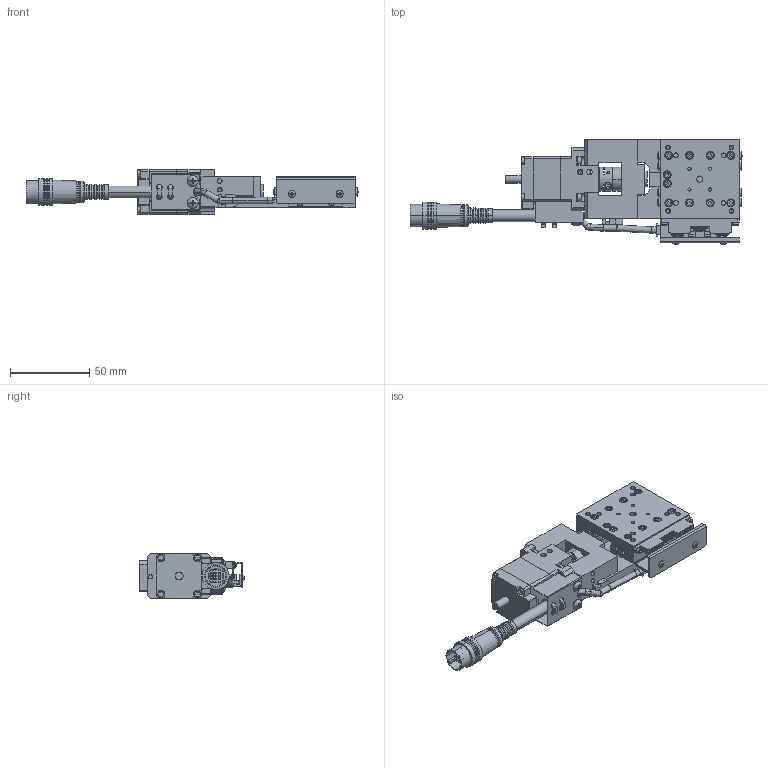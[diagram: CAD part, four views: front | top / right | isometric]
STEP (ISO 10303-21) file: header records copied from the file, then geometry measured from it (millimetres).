
FILE_DESCRIPTION (( 'STEP AP203' ), '1' );
FILE_NAME ('XA05A-R202.STEP', '2019-02-20T07:48:25', ( '' ), ( '' ), 'SwSTEP 2.0', 'SolidWorks 2018', '' );
FILE_SCHEMA (( 'CONFIG_CONTROL_DESIGN' ));
Length unit declared in the file: millimetre
Products named in the file (6): base-Part-2; XA05A-R202; table; base-Part-3; base; base-Part-1
Assembly tree (5 placements, depth 3):
  XA05A-R202
    base
      base-Part-1
      base-Part-2
      base-Part-3
    table
Bounding box: 209.09 x 66.18 x 28 mm (x, y, z)
Volume: 121635.5 mm3; surface area: 55084.6 mm2
Topology: 4 solids, 4 shells, 2182 faces, 5402 edges, 3299 vertices
Faces by surface type: plane 1281, cylinder 513, cone 248, torus 106, sphere 34
Entity records: 65062 total; most frequent: CARTESIAN_POINT 11729, DIRECTION 11530, ORIENTED_EDGE 10616, EDGE_CURVE 5308, AXIS2_PLACEMENT_3D 4140, VERTEX_POINT 3293, VECTOR 3250, LINE 3250
